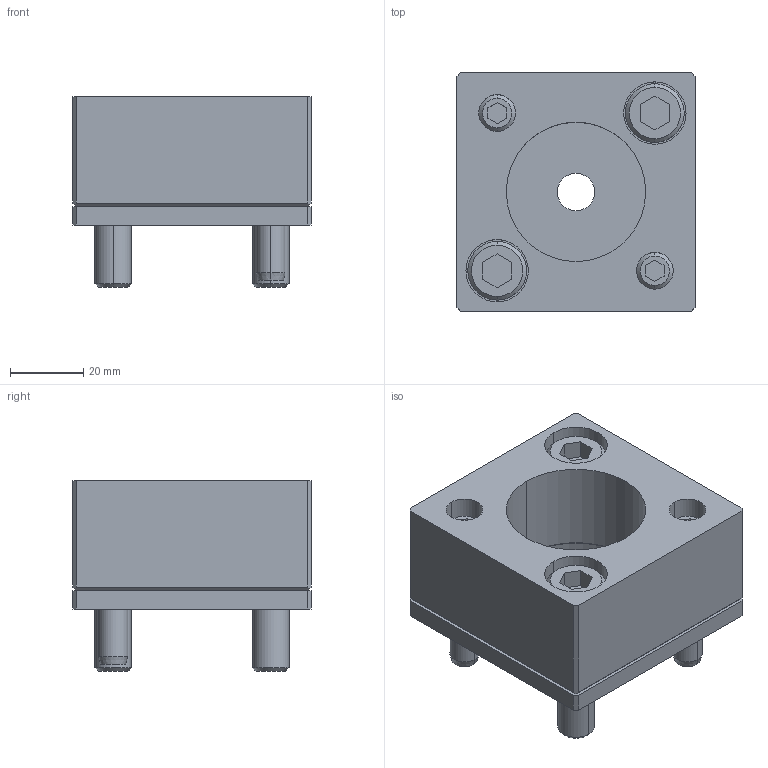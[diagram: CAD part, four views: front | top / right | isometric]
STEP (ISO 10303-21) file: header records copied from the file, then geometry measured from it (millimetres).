
FILE_DESCRIPTION(/* description */ (''),/* implementation_level */ '2;1');
FILE_NAME(/* name */ '3d_sr-ap38_03067_r00.stp',/* time_stamp */ '2011-01-10T14:09:59+09:00',/* author */ ('MISUMI'),/* organization */ (''),/* preprocessor_version */ 'ST-DEVELOPER v11',/* originating_system */ 'UGS - NX 5.0',/* authorisation */ '');
FILE_SCHEMA (('CONFIG_CONTROL_DESIGN'));
Length unit declared in the file: millimetre
Products named in the file (1): 3d_sr-ap38_03067_r00
Bounding box: 65 x 65 x 52 mm (x, y, z)
Volume: 111009.2 mm3; surface area: 38159.1 mm2
Topology: 8 solids, 8 shells, 159 faces, 358 edges, 230 vertices
Faces by surface type: plane 77, cylinder 56, cone 26
Entity records: 4588 total; most frequent: DIRECTION 812, CARTESIAN_POINT 790, ORIENTED_EDGE 716, EDGE_CURVE 358, AXIS2_PLACEMENT_3D 298, VERTEX_POINT 230, LINE 216, VECTOR 216
